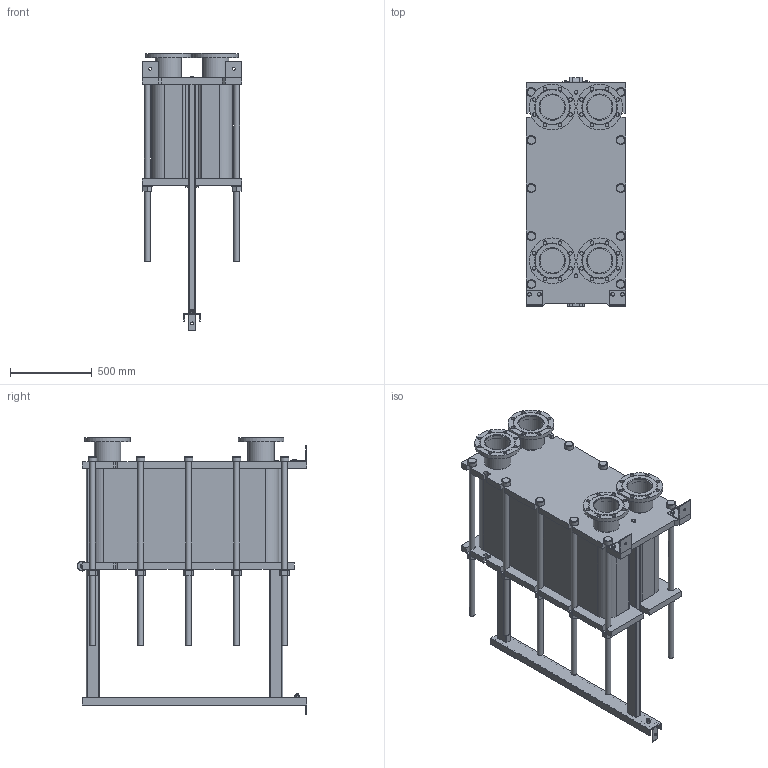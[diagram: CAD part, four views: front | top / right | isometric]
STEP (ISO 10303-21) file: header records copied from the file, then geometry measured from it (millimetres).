
FILE_DESCRIPTION(/* description */ (''),/* implementation_level */ '2;1');
FILE_NAME(/* name */ 'C:\Users\zhuro\Desktop\ENCO\TO\ЭН-041\ЭН-0,5-041-168-1.stp',/* time_stamp */ '2022-06-06T11:04:26+03:00',/* author */ ('zhuro'),/* organization */ (''),/* preprocessor_version */ 'ST-DEVELOPER v18.1',/* originating_system */ 'Autodesk Inventor 2022',/* authorisation */ '');
FILE_SCHEMA (('AUTOMOTIVE_DESIGN { 1 0 10303 214 3 1 1 }'));
Length unit declared in the file: millimetre
Products named in the file (1): ЭН-0,5-041-168-1
Bounding box: 610 x 1406.5 x 1700 mm (x, y, z)
Volume: 411240332.7 mm3; surface area: 10523855.4 mm2
Topology: 52 solids, 52 shells, 711 faces, 1696 edges, 1094 vertices
Faces by surface type: plane 487, cylinder 177, cone 41, torus 6
Full cylindrical faces by diameter (mm): 8 x4, 10 x2, 16 x8, 18 x3, 22 x32, 36 x24, 50 x1, 54 x10, 60 x12, 151 x4, 161 x8, 280 x4
Entity records: 22667 total; most frequent: CARTESIAN_POINT 5230, DIRECTION 3644, ORIENTED_EDGE 3392, EDGE_CURVE 1696, AXIS2_PLACEMENT_3D 1272, LINE 1100, VECTOR 1100, VERTEX_POINT 1094
